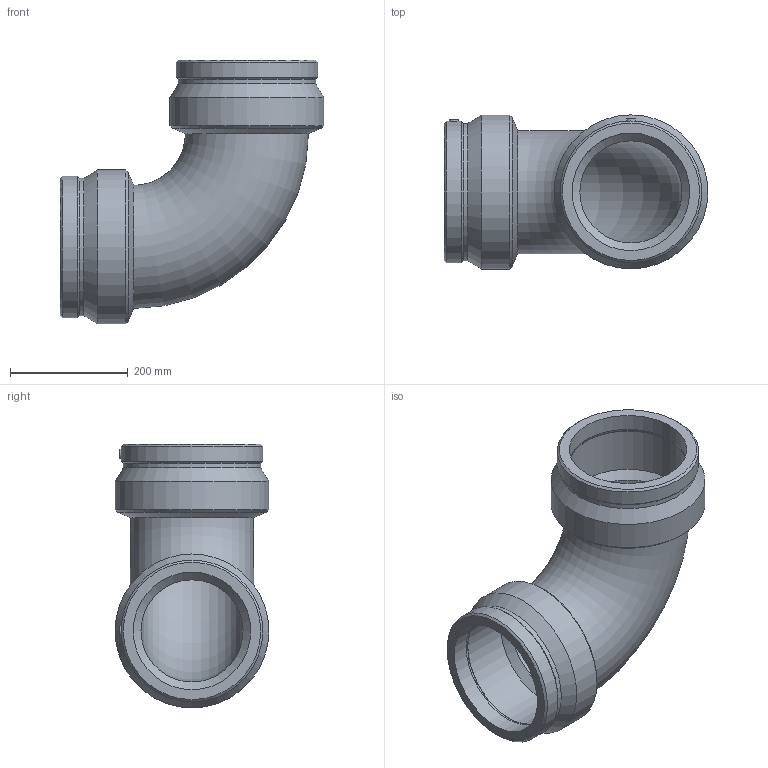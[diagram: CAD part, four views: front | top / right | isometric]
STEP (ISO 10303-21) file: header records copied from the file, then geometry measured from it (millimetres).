
FILE_DESCRIPTION(/* description */ ('PLASSON 90° ELBOW 200'),/* implementation_level */ '2;1');
FILE_NAME(/* name */ '490504200.stp',/* time_stamp */ '2026-03-22T13:12:54+02:00',/* author */ ('KIM'),/* organization */ (''),/* preprocessor_version */ 'ST-DEVELOPER v20.1',/* originating_system */ 'Autodesk Inventor 2026',/* authorisation */ '');
FILE_SCHEMA (('AUTOMOTIVE_DESIGN { 1 0 10303 214 3 1 1 }'));
Length unit declared in the file: millimetre
Products named in the file (1): 490504200
Bounding box: 449 x 262 x 449 mm (x, y, z)
Volume: 7778676.6 mm3; surface area: 784345.7 mm2
Topology: 1 solids, 1 shells, 42 faces, 82 edges, 50 vertices
Faces by surface type: cone 16, cylinder 14, plane 10, torus 2
Full cylindrical faces by diameter (mm): 4 x2, 10 x2, 200 x4, 233.809 x2, 241.04 x2, 262 x2
Entity records: 1189 total; most frequent: CARTESIAN_POINT 243, DIRECTION 212, ORIENTED_EDGE 164, AXIS2_PLACEMENT_3D 91, EDGE_CURVE 82, EDGE_LOOP 52, VERTEX_POINT 50, CIRCLE 48
